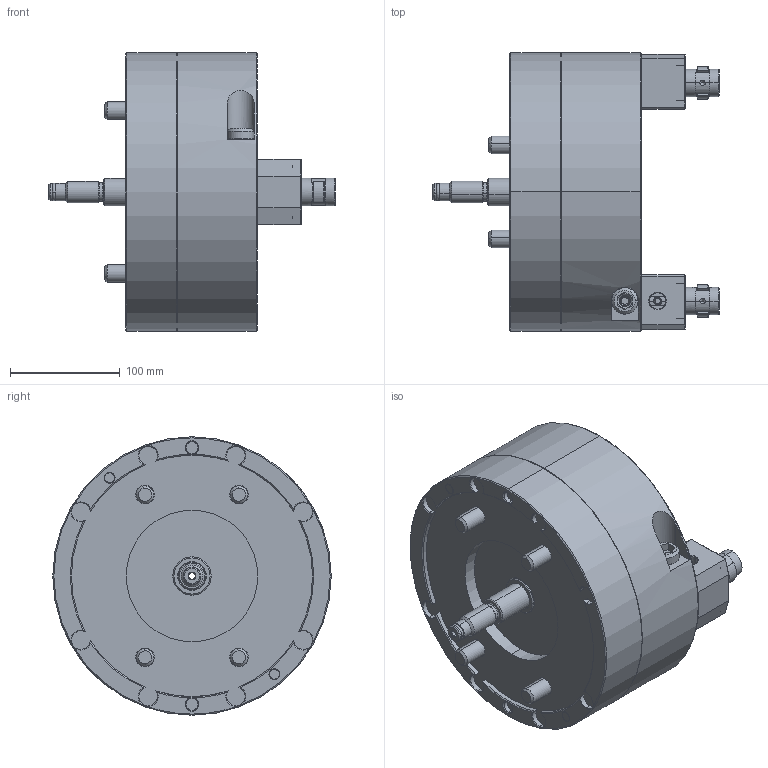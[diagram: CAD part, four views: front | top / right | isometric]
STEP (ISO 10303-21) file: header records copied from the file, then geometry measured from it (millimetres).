
FILE_DESCRIPTION (( 'STEP AP214' ), '1' );
FILE_NAME ('GFT10_OC.STEP', '2019-12-03T00:22:48', ( '' ), ( '' ), 'SwSTEP 2.0', 'SolidWorks 2017', '' );
FILE_SCHEMA (( 'AUTOMOTIVE_DESIGN' ));
Length unit declared in the file: millimetre
Products named in the file (2): 結合1; GFT10_OC
Assembly tree (1 placements, depth 2):
  GFT10_OC
    結合1
Bounding box: 261 x 254 x 254 mm (x, y, z)
Volume: 5920918.4 mm3; surface area: 307485.4 mm2
Topology: 3 solids, 19 shells, 1398 faces, 3378 edges, 2074 vertices
Faces by surface type: plane 586, cone 352, cylinder 304, torus 88, bspline 68
Entity records: 44898 total; most frequent: CARTESIAN_POINT 12836, ORIENTED_EDGE 6668, DIRECTION 6608, EDGE_CURVE 3334, AXIS2_PLACEMENT_3D 2510, VERTEX_POINT 2074, VECTOR 1588, LINE 1588
